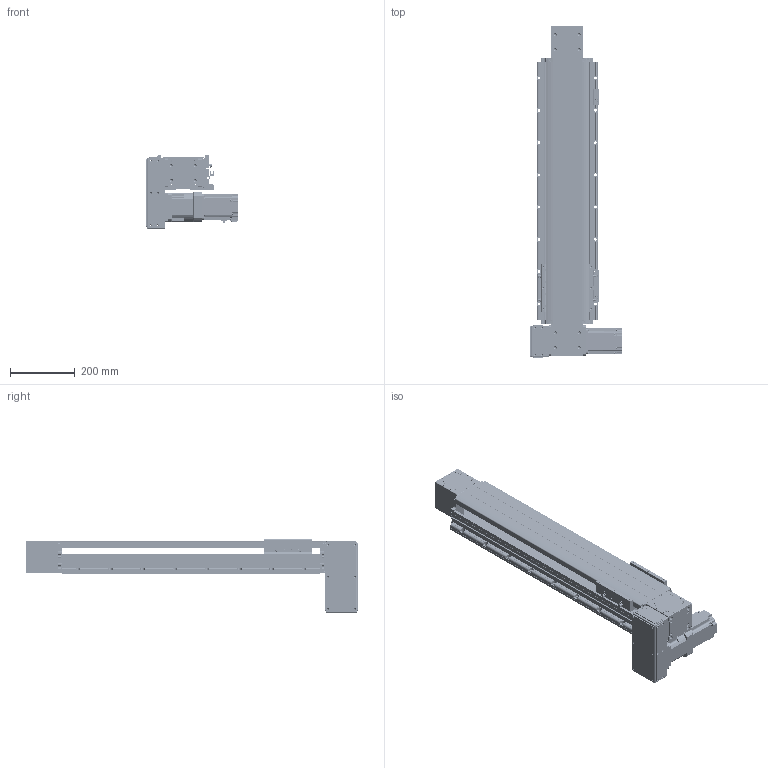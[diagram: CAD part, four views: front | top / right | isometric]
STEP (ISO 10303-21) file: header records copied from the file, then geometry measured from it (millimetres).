
FILE_DESCRIPTION(/* description */ (''),/* implementation_level */ '2;1');
FILE_NAME(/* name */ '\\192.168.0.160\disk1\HAN SHIN Master\B-설계부문\C-표준\B-2024년\BC02-표준도면\+로봇 개선표준도면\홈페이지 표준 도면\홈페이지 최종 작업 폴더\3D\HB\HB160-DL7G-N-0600-R.stp',/* time_stamp */ '2025-01-14T08:47:05+09:00',/* author */ ('user'),/* organization */ (''),/* preprocessor_version */ 'ST-DEVELOPER v18.1',/* originating_system */ 'Autodesk Inventor 2022',/* authorisation */ '');
FILE_SCHEMA (('AUTOMOTIVE_DESIGN { 1 0 10303 214 3 1 1 }'));
Products named in the file (41): HSB160-DL7G-N-0500-R; BASE; HSB160 TABLE (TEST); FORNT HOUSUNG-1 (Connecting); UPCOVER; HSB160 COVER-1; REAR HOUSUNG-1---; HSB160 REAR SHAFT-2; REAR SHAFT--2; 6004ZZ; 6004ZZ Outer ring; 6004ZZ Shield1; 6004ZZ Inner ring; 6004ZZ Ball; 6004ZZ Shield2; STOPPER3; TENSION PLATE; HSB160 ARC COVER; hsr_ftht_A-M6F_grease_nipple_joint; NIPPLE CAP(신규); hg-kr73_; PGX90-H-1_3; HSB160 BEARING OVER; HSB160 END COVER; HSB160 SHAFT-1; 6206ZZ; 6206ZZ Outer ring; 6206ZZ Shield1; 6206ZZ Inner ring; 6206ZZ Ball; 6206ZZ Shield2; HR120 SENSOR DOG; SENSOR BRK(EE-SX674A); EE_SX674A; D MOTOR PLATE ASSY; HSB160 D MOTOR PLATE; HR160 400W LR BELT COVER; 750W MOTOR PLATE; HR180 ACRYL COVER - 1; HR180 ACRYL COVER - 1_1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
Assembly tree (85 placements, depth 3):
  HSB160-DL7G-N-0500-R
    BASE
    HSB160 TABLE (TEST)
    FORNT HOUSUNG-1 (Connecting)
    UPCOVER
    HSB160 COVER-1  x2
    REAR HOUSUNG-1---
    6004ZZ  x2
      6004ZZ Outer ring
      6004ZZ Shield1
      6004ZZ Inner ring
      6004ZZ Ball
      6004ZZ Shield2
    HSB160 REAR SHAFT-2
    REAR SHAFT--2
    TENSION PLATE  x2
    HSB160 ARC COVER  x4
    STOPPER3  x4
    hsr_ftht_A-M6F_grease_nipple_joint  x4
    NIPPLE CAP(신규)  x4
    hg-kr73_
    PGX90-H-1_3
    HSB160 BEARING OVER
    HSB160 END COVER
    6206ZZ  x2
      6206ZZ Outer ring
      6206ZZ Shield1
      6206ZZ Inner ring
      6206ZZ Ball
      6206ZZ Shield2
    HSB160 SHAFT-1
    HR120 SENSOR DOG
    SENSOR BRK(EE-SX674A)  x3
    EE_SX674A  x3
    D MOTOR PLATE ASSY
      HSB160 D MOTOR PLATE
      HR160 400W LR BELT COVER
      750W MOTOR PLATE
      HR180 ACRYL COVER - 1_2  x2
      HR180 ACRYL COVER - 1
      HR180 ACRYL COVER - 1_1
Bounding box: 284.5 x 1028.5 x 226.5 mm (x, y, z)
Volume: 7362890.9 mm3; surface area: 1857125.3 mm2
Topology: 129 solids, 131 shells, 6398 faces, 17545 edges, 11538 vertices
Faces by surface type: plane 4492, cylinder 1367, cone 367, sphere 88, torus 59, bspline 25
Full cylindrical faces by diameter (mm): 2.013 x2, 2.459 x54, 3 x20, 3.242 x42, 3.4 x22, 3.5 x6, 4.134 x18, 4.2 x4, 4.5 x40, 4.917 x74, 5 x44, 5.1 x1, 5.5 x25, 5.6 x4, 5.9 x4, 6 x21, 6.5 x9, 6.6 x18, 6.8 x9, 7 x32, 7.6 x4, 8 x5, 8.376 x16, 8.433 x2, 9 x4, 9.5 x31, 10 x5, 11 x28, 15 x8, 18.5 x2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
Entity records: 115942 total; most frequent: CARTESIAN_POINT 22038, DIRECTION 19250, ORIENTED_EDGE 18694, EDGE_CURVE 9347, AXIS2_PLACEMENT_3D 6525, LINE 6200, VECTOR 6200, VERTEX_POINT 6179
